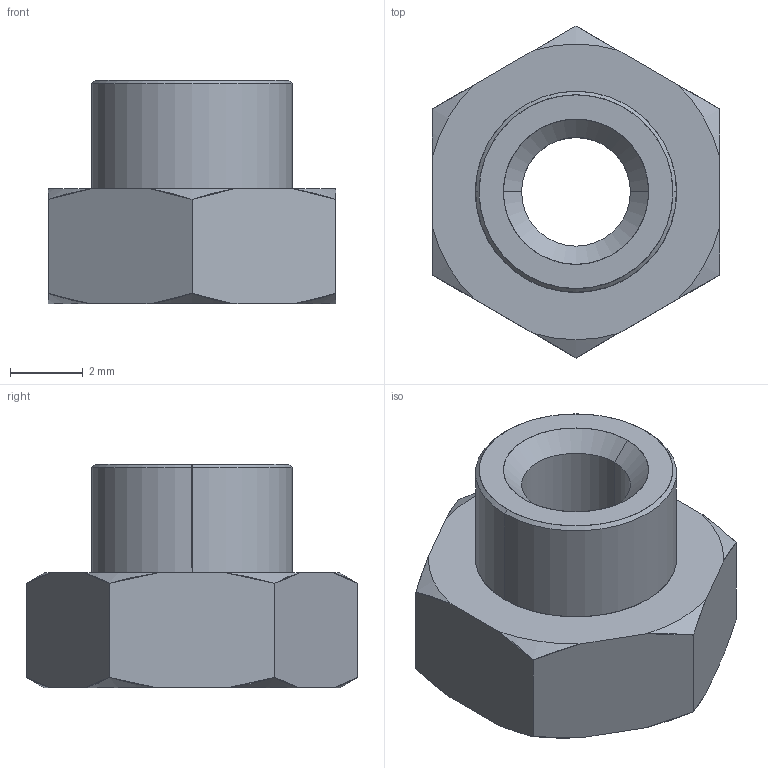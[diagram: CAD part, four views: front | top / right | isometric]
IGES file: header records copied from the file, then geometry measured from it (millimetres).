
Start section: SolidWorks IGES file using analytic representation for surfaces
Global section: file name: C:\Users\liam_\OneDrive\Desktop\Work\Mat Davis Pending 20181125\automotion\P SERIES\P0827.ZP_v2\P0827.ZP_v2_20181231_IGES\P0827.120-12G-ZP.igs; native system: SolidWorks 2017; preprocessor: SolidWorks 2017; author: liam_; date: 181231.111231; units: millimetre
Bounding box: 7.92 x 9.15 x 6.17 mm (x, y, z)
Surface area: 282.8 mm2 (no closed solid volume)
Topology: 0 solids, 0 shells, 31 faces, 336 edges, 336 vertices
Faces by surface type: revolution 22, bspline 9
